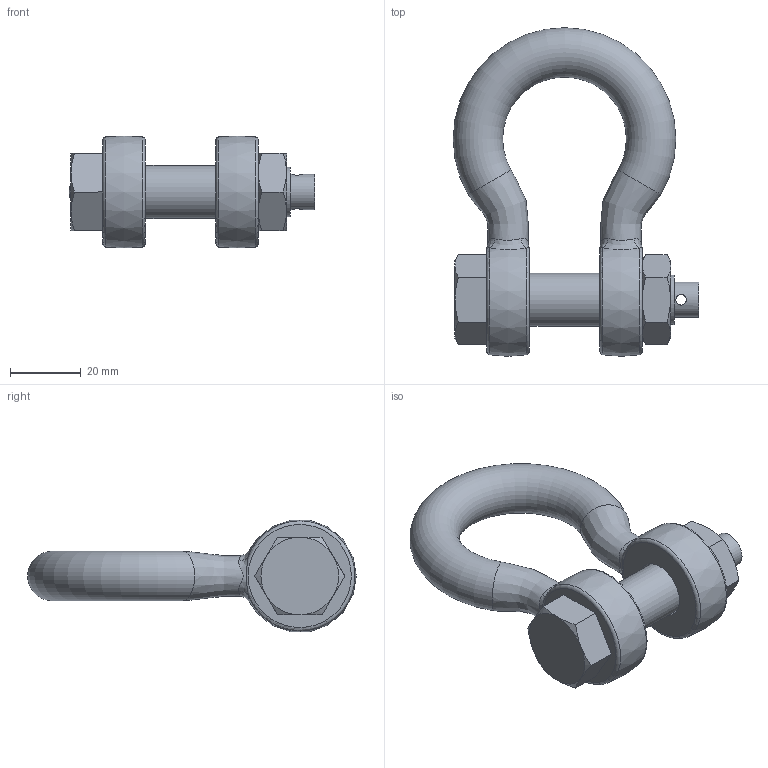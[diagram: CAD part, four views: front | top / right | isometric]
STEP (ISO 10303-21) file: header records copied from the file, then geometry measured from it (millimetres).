
FILE_DESCRIPTION(/* description */ (''),/* implementation_level */ '2;1');
FILE_NAME(/* name */ 'C:\Users\D\Documents\Inventor\HP\吊具\シャックル\BB_2\bb_12.stp',/* time_stamp */ '2024-11-20T10:47:51+09:00',/* author */ ('D'),/* organization */ (''),/* preprocessor_version */ 'ST-DEVELOPER v18',/* originating_system */ 'Autodesk Inventor 2020',/* authorisation */ '');
FILE_SCHEMA (('AUTOMOTIVE_DESIGN { 1 0 10303 214 3 1 1 }'));
Length unit declared in the file: millimetre
Products named in the file (3): bb_12; ba_6; sb_pin_10
Assembly tree (2 placements, depth 2):
  bb_12
    ba_6
    sb_pin_10
Bounding box: 69.5 x 93 x 31.63 mm (x, y, z)
Volume: 49880.1 mm3; surface area: 17096.3 mm2
Topology: 4 solids, 4 shells, 69 faces, 167 edges, 109 vertices
Faces by surface type: plane 26, cone 19, bspline 12, cylinder 7, torus 5
Full cylindrical faces by diameter (mm): 3 x1, 10 x1, 14 x2, 15 x1, 16 x2
Entity records: 3053 total; most frequent: CARTESIAN_POINT 1464, ORIENTED_EDGE 334, DIRECTION 293, EDGE_CURVE 167, AXIS2_PLACEMENT_3D 133, VERTEX_POINT 109, EDGE_LOOP 78, CIRCLE 71
